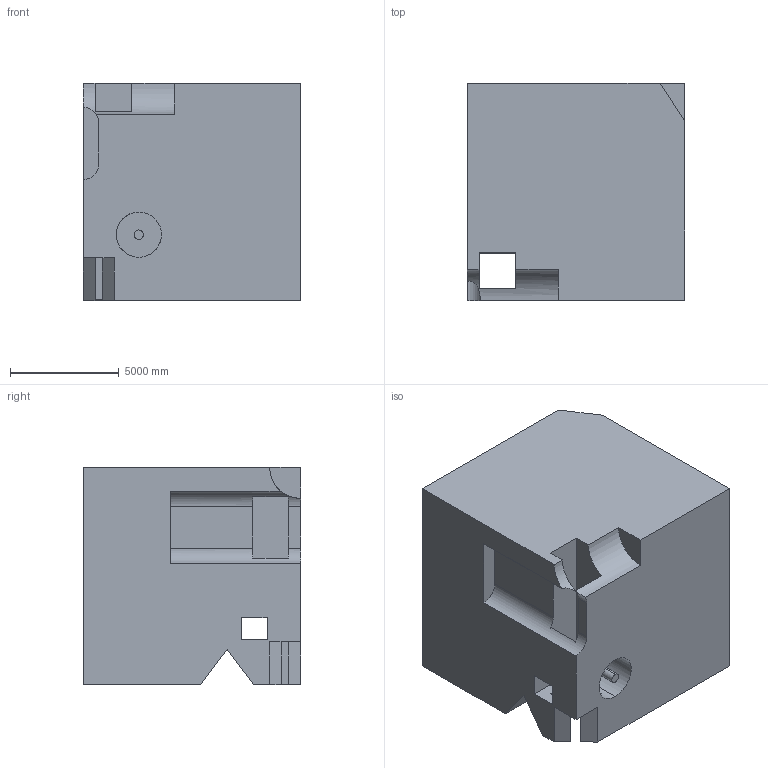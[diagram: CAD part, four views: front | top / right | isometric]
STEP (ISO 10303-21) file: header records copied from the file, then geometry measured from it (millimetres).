
FILE_DESCRIPTION (( 'STEP AP203' ), '1' );
FILE_NAME ('1797.STEP', '2022-08-19T12:58:13', ( 'user' ), ( '' ), 'SwSTEP 2.0', 'SolidWorks 2021', '' );
FILE_SCHEMA (( 'CONFIG_CONTROL_DESIGN' ));
Length unit declared in the file: centimetre
Products named in the file (1): 1797
Bounding box: 10000 x 10000 x 10000 mm (x, y, z)
Volume: 907111108748.4 mm3; surface area: 695032137.8 mm2
Topology: 1 solids, 1 shells, 46 faces, 144 edges, 96 vertices
Faces by surface type: plane 39, cylinder 7
Entity records: 1764 total; most frequent: CARTESIAN_POINT 358, ORIENTED_EDGE 288, DIRECTION 267, EDGE_CURVE 144, LINE 113, VECTOR 113, VERTEX_POINT 96, AXIS2_PLACEMENT_3D 77
